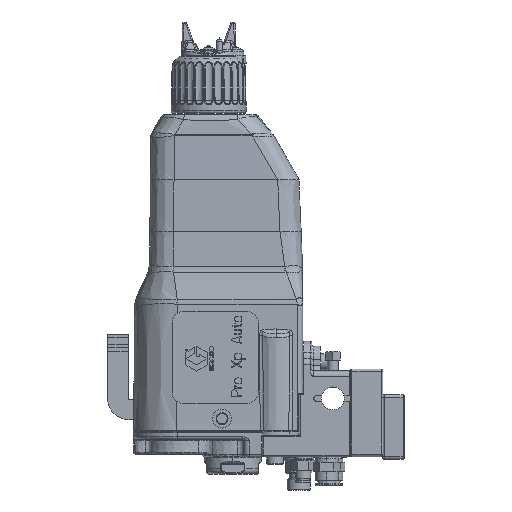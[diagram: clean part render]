
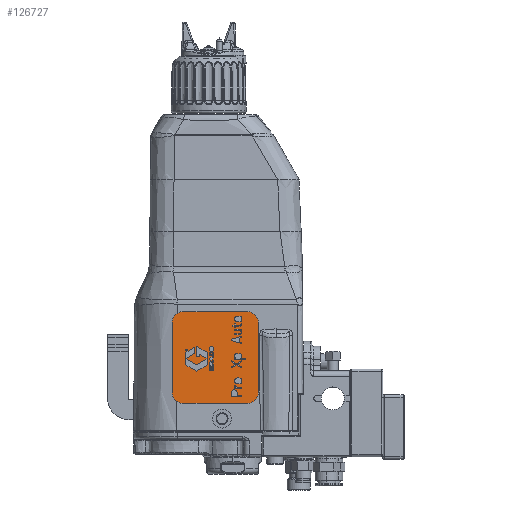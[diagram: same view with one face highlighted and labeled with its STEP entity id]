
A CAD part, left-side view. The second image highlights one B-rep face of the part: STEP entity #126727.
In plain terms, the highlighted planar face has unit normal (-1, 0, 0).
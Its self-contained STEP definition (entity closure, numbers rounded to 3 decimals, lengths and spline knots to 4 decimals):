
#124887=DIRECTION('',(0.,0.,1.));
#124888=VECTOR('',#124887,1.625);
#124889=CARTESIAN_POINT('',(-1.245,-1.861,1.485));
#124890=LINE('',#124889,#124888);
#124891=CARTESIAN_POINT('',(-1.245,-1.611,1.485));
#124892=DIRECTION('',(-1.,0.,0.));
#124893=DIRECTION('',(0.,0.,-1.));
#124894=AXIS2_PLACEMENT_3D('',#124891,#124892,#124893);
#124896=DIRECTION('',(0.,1.,0.));
#124897=VECTOR('',#124896,1.5);
#124898=CARTESIAN_POINT('',(-1.245,-1.611,1.235));
#124899=LINE('',#124898,#124897);
#124900=CARTESIAN_POINT('',(-1.245,-0.111,1.485));
#124901=DIRECTION('',(-1.,0.,0.));
#124902=DIRECTION('',(0.,1.,0.));
#124903=AXIS2_PLACEMENT_3D('',#124900,#124901,#124902);
#124905=DIRECTION('',(0.,0.,-1.));
#124906=VECTOR('',#124905,1.625);
#124907=CARTESIAN_POINT('',(-1.245,0.139,3.11));
#124908=LINE('',#124907,#124906);
#124909=CARTESIAN_POINT('',(-1.245,-0.111,3.11));
#124910=DIRECTION('',(-1.,0.,0.));
#124911=DIRECTION('',(0.,0.,1.));
#124912=AXIS2_PLACEMENT_3D('',#124909,#124910,#124911);
#124914=DIRECTION('',(0.,1.,0.));
#124915=VECTOR('',#124914,1.5);
#124916=CARTESIAN_POINT('',(-1.245,-1.611,3.36));
#124917=LINE('',#124916,#124915);
#124918=CARTESIAN_POINT('',(-1.245,-1.611,3.11));
#124919=DIRECTION('',(-1.,0.,0.));
#124920=DIRECTION('',(0.,-1.,0.));
#124921=AXIS2_PLACEMENT_3D('',#124918,#124919,#124920);
#126193=CARTESIAN_POINT('',(-1.245,-1.861,1.485));
#126194=CARTESIAN_POINT('',(-1.245,-1.861,3.11));
#126195=VERTEX_POINT('',#126193);
#126196=VERTEX_POINT('',#126194);
#126197=CARTESIAN_POINT('',(-1.245,-1.611,3.36));
#126198=VERTEX_POINT('',#126197);
#126199=CARTESIAN_POINT('',(-1.245,-0.111,3.36));
#126200=VERTEX_POINT('',#126199);
#126201=CARTESIAN_POINT('',(-1.245,0.139,3.11));
#126202=VERTEX_POINT('',#126201);
#126203=CARTESIAN_POINT('',(-1.245,0.139,1.485));
#126204=VERTEX_POINT('',#126203);
#126205=CARTESIAN_POINT('',(-1.245,-0.111,1.235));
#126206=VERTEX_POINT('',#126205);
#126207=CARTESIAN_POINT('',(-1.245,-1.611,1.235));
#126208=VERTEX_POINT('',#126207);
#126704=CARTESIAN_POINT('',(-1.245,-1.861,1.235));
#126705=DIRECTION('',(-1.,0.,0.));
#126706=DIRECTION('',(0.,0.,1.));
#126707=AXIS2_PLACEMENT_3D('',#126704,#126705,#126706);
#126708=PLANE('',#126707);
#126710=ORIENTED_EDGE('',*,*,#126709,.F.);
#126712=ORIENTED_EDGE('',*,*,#126711,.F.);
#126714=ORIENTED_EDGE('',*,*,#126713,.T.);
#126716=ORIENTED_EDGE('',*,*,#126715,.F.);
#126718=ORIENTED_EDGE('',*,*,#126717,.F.);
#126720=ORIENTED_EDGE('',*,*,#126719,.F.);
#126722=ORIENTED_EDGE('',*,*,#126721,.F.);
#126724=ORIENTED_EDGE('',*,*,#126723,.F.);
#126725=EDGE_LOOP('',(#126710,#126712,#126714,#126716,#126718,#126720,#126722,
#126724));
#126726=FACE_OUTER_BOUND('',#126725,.F.);
#126727=ADVANCED_FACE('',(#126726),#126708,.T.);
#124895=CIRCLE('',#124894,0.25);
#124904=CIRCLE('',#124903,0.25);
#124913=CIRCLE('',#124912,0.25);
#124922=CIRCLE('',#124921,0.25);
#126709=EDGE_CURVE('',#126195,#126196,#124890,.T.);
#126711=EDGE_CURVE('',#126208,#126195,#124895,.T.);
#126713=EDGE_CURVE('',#126208,#126206,#124899,.T.);
#126715=EDGE_CURVE('',#126204,#126206,#124904,.T.);
#126717=EDGE_CURVE('',#126202,#126204,#124908,.T.);
#126719=EDGE_CURVE('',#126200,#126202,#124913,.T.);
#126721=EDGE_CURVE('',#126198,#126200,#124917,.T.);
#126723=EDGE_CURVE('',#126196,#126198,#124922,.T.);
